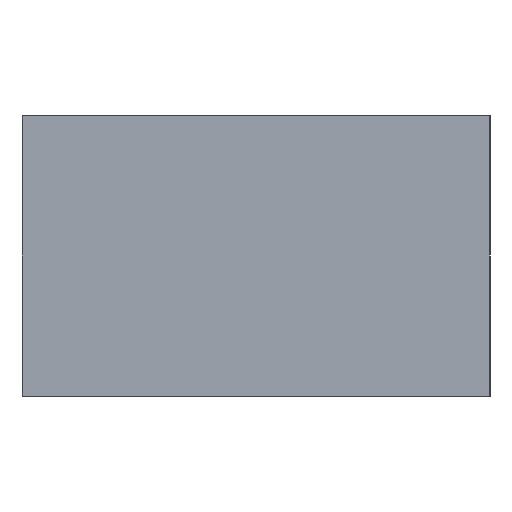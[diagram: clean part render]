
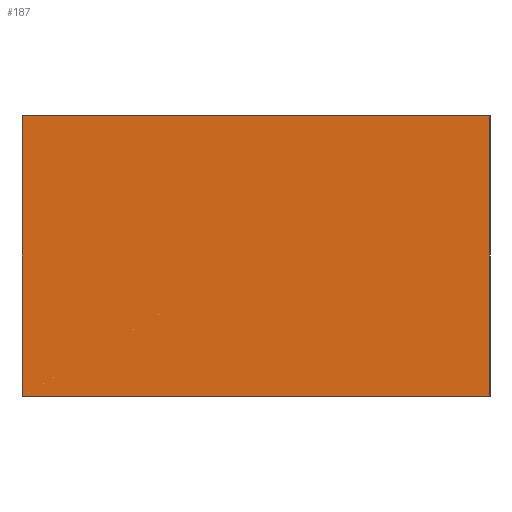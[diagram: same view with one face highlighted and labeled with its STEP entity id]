
A CAD part, left-side view. The second image highlights one B-rep face of the part: STEP entity #187.
In plain terms, the highlighted planar face has unit normal (-1, 0, 0).
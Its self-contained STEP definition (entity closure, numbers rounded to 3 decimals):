
#17=LINE('',#298,#29);
#22=LINE('',#308,#34);
#23=LINE('',#311,#35);
#24=LINE('',#312,#36);
#29=VECTOR('',#248,10.);
#34=VECTOR('',#257,6.);
#35=VECTOR('',#260,10.);
#36=VECTOR('',#261,6.);
#41=PLANE('',#210);
#68=FACE_OUTER_BOUND('',#87,.T.);
#87=EDGE_LOOP('',(#162,#163,#164,#165));
#108=VERTEX_POINT('',#291);
#111=VERTEX_POINT('',#296);
#114=VERTEX_POINT('',#306);
#115=VERTEX_POINT('',#310);
#127=EDGE_CURVE('',#111,#108,#17,.T.);
#132=EDGE_CURVE('',#114,#111,#22,.T.);
#133=EDGE_CURVE('',#115,#114,#23,.T.);
#134=EDGE_CURVE('',#108,#115,#24,.T.);
#162=ORIENTED_EDGE('',*,*,#132,.F.);
#163=ORIENTED_EDGE('',*,*,#133,.F.);
#164=ORIENTED_EDGE('',*,*,#134,.F.);
#165=ORIENTED_EDGE('',*,*,#127,.F.);
#187=ADVANCED_FACE('',(#68),#41,.T.);
#210=AXIS2_PLACEMENT_3D('',#309,#258,#259);
#248=DIRECTION('',(0.,1.,0.));
#257=DIRECTION('',(0.,0.,-1.));
#258=DIRECTION('center_axis',(-1.,0.,0.));
#259=DIRECTION('ref_axis',(0.,-1.,0.));
#260=DIRECTION('',(0.,-1.,0.));
#261=DIRECTION('',(0.,0.,1.));
#291=CARTESIAN_POINT('',(-10.,5.,-3.));
#296=CARTESIAN_POINT('',(-10.,-5.,-3.));
#298=CARTESIAN_POINT('',(-10.,-5.,-3.));
#306=CARTESIAN_POINT('',(-10.,-5.,3.));
#308=CARTESIAN_POINT('',(-10.,-5.,0.));
#309=CARTESIAN_POINT('Origin',(-10.,5.,0.));
#310=CARTESIAN_POINT('',(-10.,5.,3.));
#311=CARTESIAN_POINT('',(-10.,-5.,3.));
#312=CARTESIAN_POINT('',(-10.,5.,0.));
